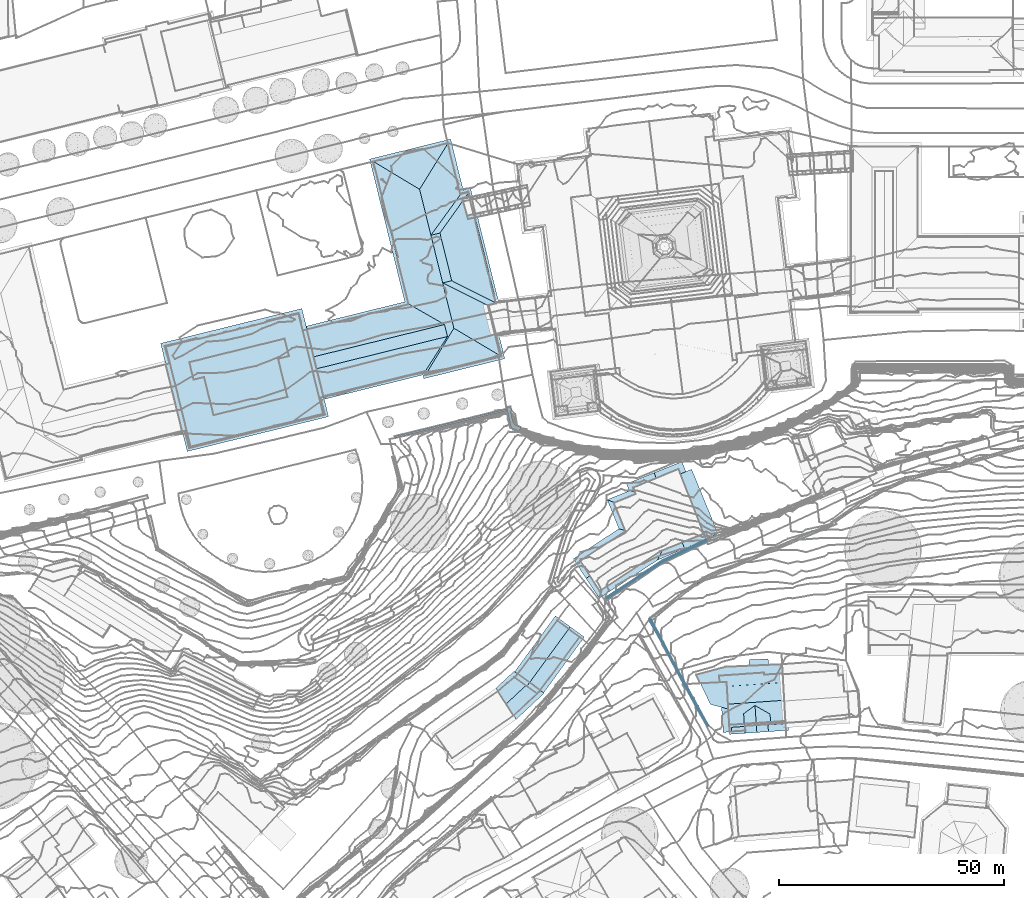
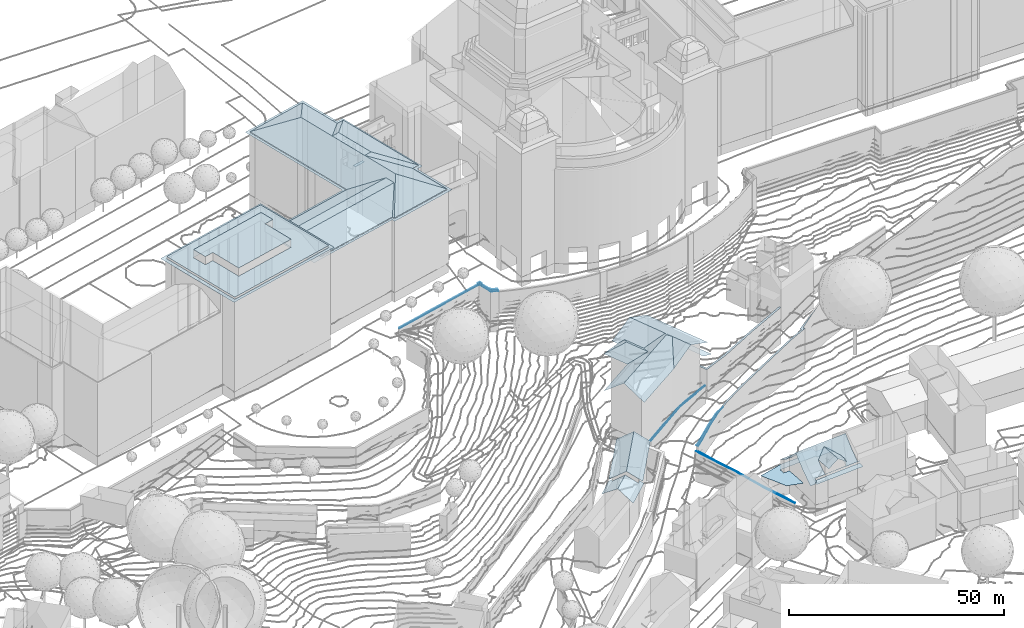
# Not in any storey, part 76 of 494: 18 roofs.
"""IFC2X3 model written with IfcOpenShell, lengths in metres."""

from ifc_helpers import new_model, si_unit, frame, origin_with_axes, place, context, subcontext, project, faceted_brep, element, save


model = new_model("IFC2X3")

# Units and contexts
model_context = context("Model", 3, precision=1e-05, world=origin_with_axes())
body_context = subcontext(model_context, "Body", "Model", "MODEL_VIEW")
ifc_project = project(units=[si_unit("AREAUNIT", "SQUARE_METRE"), si_unit("LENGTHUNIT", "METRE")], contexts=[model_context])

# Roofs
roof_1_placement = place(None, frame((211.8297320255, 101.9383160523, 526.7541), z_axis=(0.0, 0.0, 1.0), x_axis=(1.0, 0.0, 0.0)))
element("IfcRoof", 1, at=roof_1_placement, Name="Roof 3", ShapeType="NOTDEFINED", context=body_context, shape_type="Brep", body=[
    faceted_brep([(279.751000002, 292.1328000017, 24.302), (279.5840000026, 292.9023000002, 24.302), (276.8790000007, 291.5137000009, 24.302), (276.6600000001, 292.2723999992, 24.302)], [[[0, 1, 2]], [[3, 2, 1]]]),
])
roof_2_placement = place(None, frame((211.8297320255, 101.9383160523, 526.7541), z_axis=(0.0, 0.0, 1.0), x_axis=(1.0, 0.0, 0.0)))
element("IfcRoof", 2, at=roof_2_placement, Name="Roof 49", ShapeType="NOTDEFINED", context=body_context, shape_type="Brep", body=[
    faceted_brep([(285.5260000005, 249.0487999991, 13.4408), (285.4420000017, 249.4101000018, 13.4408), (260.5320000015, 243.3379000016, 13.4408), (260.620000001, 242.9765000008, 13.4408), (286.1970000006, 248.9990000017, 13.5628), (286.4820000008, 249.0634999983, 13.5628), (285.3690000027, 249.7305000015, 13.5628), (286.2809999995, 249.9393999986, 13.5628), (286.7640000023, 246.5692999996, 13.5628), (286.4130000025, 245.1796999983, 13.5628), (288.2349999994, 244.4609000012, 13.5628), (287.2149999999, 245.8680999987, 13.5628), (288.5089999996, 245.3583999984, 13.5628)], [[[0, 1, 2]], [[2, 3, 0]], [[4, 5, 6]], [[7, 6, 5]], [[4, 6, 8]], [[9, 10, 11]], [[11, 8, 9]], [[12, 11, 10]], [[9, 8, 6]]]),
])
roof_3_placement = place(None, frame((211.8297320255, 101.9383160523, 526.7541), z_axis=(0.0, 0.0, 1.0), x_axis=(1.0, 0.0, 0.0)))
element("IfcRoof", 3, at=roof_3_placement, Name="Roof 73", ShapeType="NOTDEFINED", context=body_context, shape_type="Brep", body=[
    faceted_brep([(329.8200000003, 220.1338, -13.0868), (329.6909999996, 220.4560000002, -13.0867), (320.0240000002, 215.8564000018, -13.0867), (320.1950000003, 215.5537, -13.0867), (307.4640000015, 207.6141999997, -13.3507), (307.6610000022, 207.3280999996, -13.3497)], [[[0, 1, 2]], [[2, 3, 0]], [[3, 2, 4]], [[4, 5, 3]]]),
])
roof_4_placement = place(None, frame((211.8297320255, 101.9383160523, 526.7541), z_axis=(0.0, 0.0, 1.0), x_axis=(1.0, 0.0, 0.0)))
element("IfcRoof", 4, at=roof_4_placement, Name="Roof 74", ShapeType="NOTDEFINED", context=body_context, shape_type="Brep", body=[
    faceted_brep([(329.9260000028, 219.8671999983, -8.4892), (336.4900000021, 222.9530999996, -8.1932), (330.2320000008, 220.5643999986, -8.4892), (329.6119999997, 222.120099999, -8.4892), (329.1080000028, 221.9189000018, -8.4892), (336.6920000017, 222.4492000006, -8.1932), (345.5150000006, 226.7470999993, -7.1543), (356.0329999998, 230.5771000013, -6.4134), (355.8230000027, 231.0771000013, -6.4134), (345.7250000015, 226.2470999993, -7.1543)], [[[0, 1, 2]], [[3, 4, 2]], [[0, 2, 4]], [[1, 0, 5]], [[6, 7, 8]], [[1, 5, 6]], [[9, 6, 5]], [[9, 7, 6]]]),
])
roof_5_placement = place(None, frame((211.8297320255, 101.9383160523, 526.7541), z_axis=(0.0, 0.0, 1.0), x_axis=(1.0, 0.0, 0.0)))
element("IfcRoof", 5, at=roof_5_placement, Name="Roof 82", ShapeType="NOTDEFINED", context=body_context, shape_type="Brep", body=[
    faceted_brep([(325.4169999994, 209.3729999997, -14.4056), (327.3210000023, 210.2148000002, -14.1247), (327.0160000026, 210.5722000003, -14.1347), (325.7039999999, 209.0243999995, -14.4046), (329.5329999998, 211.4404000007, -13.6877), (323.4570000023, 207.9023000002, -14.5956), (323.7280000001, 207.5370999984, -14.5966), (318.8420000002, 204.1103000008, -15.2206), (319.1640000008, 203.6992000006, -15.2206), (317.2360000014, 202.8603000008, -15.2346), (317.5140000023, 202.3574000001, -15.2356), (317.3619999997, 202.9580000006, -15.2336)], [[[0, 1, 2]], [[1, 0, 3]], [[4, 2, 1]], [[5, 6, 0]], [[3, 0, 6]], [[6, 5, 7]], [[7, 8, 6]], [[9, 10, 11]], [[11, 8, 7]], [[8, 11, 10]]]),
])
roof_6_placement = place(None, frame((211.8297320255, 101.9383160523, 526.7541), z_axis=(0.0, 0.0, 1.0), x_axis=(1.0, 0.0, 0.0)))
element("IfcRoof", 6, at=roof_6_placement, Name="Roof 83", ShapeType="NOTDEFINED", context=body_context, shape_type="Brep", body=[
    faceted_brep([(348.2180000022, 219.9853000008, -10.339), (348.3960000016, 219.5342000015, -10.34), (353.4940000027, 222.2256000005, -9.6301), (354.0190000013, 221.9697000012, -9.5821), (336.1300000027, 214.8555000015, -12.1509), (330.8370000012, 212.0936999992, -13.3767), (336.2930000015, 214.442400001, -12.1529), (358.6170000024, 223.8066000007, -9.1681), (357.693, 223.8564000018, -9.1681), (357.5240000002, 224.2617000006, -9.1681), (358.4250000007, 224.3143999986, -9.1681), (364.5199999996, 228.5967000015, -8.2052), (330.8900000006, 212.6229999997, -13.3187), (329.2880000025, 211.7743999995, -13.6997), (329.5329999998, 211.4404000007, -13.6877), (327.0160000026, 210.5722000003, -14.1347)], [[[0, 1, 2]], [[3, 2, 1]], [[4, 5, 6]], [[2, 7, 8]], [[7, 2, 3]], [[9, 8, 10]], [[7, 10, 8]], [[11, 9, 10]], [[12, 13, 14]], [[15, 14, 13]], [[1, 0, 6]], [[4, 6, 0]], [[4, 12, 5]], [[14, 5, 12]]]),
])
roof_7_placement = place(None, frame((211.8297320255, 101.9383160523, 526.7541), z_axis=(0.0, 0.0, 1.0), x_axis=(1.0, 0.0, 0.0)))
element("IfcRoof", 7, at=roof_7_placement, Name="Roof 85", ShapeType="NOTDEFINED", context=body_context, shape_type="Brep", body=[
    faceted_brep([(329.9570000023, 179.0137000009, -21.669), (330.2019999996, 179.1581999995, -21.669), (330.1400000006, 179.2109000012, -21.656), (327.8320000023, 183.4316000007, -20.7571)], [[[0, 1, 2]], [[3, 0, 2]]]),
])
roof_8_placement = place(None, frame((211.8297320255, 101.9383160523, 526.7541), z_axis=(0.0, 0.0, 1.0), x_axis=(1.0, 0.0, 0.0)))
element("IfcRoof", 8, at=roof_8_placement, Name="Roof 86", ShapeType="NOTDEFINED", context=body_context, shape_type="Brep", body=[
    faceted_brep([(322.7210000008, 192.8222999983, -18.6592), (322.4910000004, 192.7012000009, -18.6592), (323.4299999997, 191.4824000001, -18.9962), (325.6339999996, 186.7373000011, -20.1591), (325.938000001, 186.8964999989, -20.1591), (320.2380000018, 197.5185000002, -17.8803), (320.0100000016, 197.3916000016, -17.8803), (329.9570000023, 179.0137000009, -21.669), (327.8320000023, 183.4316000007, -20.7571), (327.4610000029, 183.2256000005, -20.7571), (316.9629999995, 202.6484000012, -16.6504), (317.5140000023, 202.3574000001, -16.7574), (317.6300000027, 202.4512000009, -16.7524), (317.2360000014, 202.8603000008, -16.6404)], [[[0, 1, 2]], [[2, 3, 4]], [[3, 2, 1]], [[1, 0, 5]], [[5, 6, 1]], [[7, 8, 9]], [[6, 5, 10]], [[11, 5, 12]], [[10, 5, 11]], [[13, 10, 11]], [[4, 3, 8]], [[9, 8, 3]]]),
])
roof_9_placement = place(None, frame((495.292732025, 288.7264160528, 509.5088), z_axis=(0.0, 0.0, 1.0), x_axis=(1.0, 0.0, 0.0)))
element("IfcRoof", 9, at=roof_9_placement, Name="Roof 0", ShapeType="NOTDEFINED", context=body_context, shape_type="Brep", body=[
    faceted_brep([(1.813000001, -2.8125, 12.3218), (8.6700000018, -0.5927999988, 10.191), (6.1500000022, 1.2479999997, 12.3218), (4.0310000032, -6.253899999, 9.522), (9.0329999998, -0.2578000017, 10.188), (10.2380000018, -0.442400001, 9.522), (9.3670000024, 0.1933000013, 10.258), (3.643000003, 3.0780999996, 10.244), (-0.4499999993, 0.6972000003, 9.522), (3.5500000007, 4.441399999, 9.522), (4.3840000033, 3.8319999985, 10.213), (4.1290000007, 3.4891999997, 10.266)], [[[0, 1, 2]], [[1, 0, 3]], [[4, 5, 6]], [[5, 4, 1]], [[5, 1, 3]], [[0, 7, 8]], [[7, 0, 2]], [[8, 7, 9]], [[10, 9, 11]], [[11, 9, 7]]]),
])
roof_10_placement = place(None, frame((495.292732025, 288.7264160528, 509.5088), z_axis=(0.0, 0.0, 1.0), x_axis=(1.0, 0.0, 0.0)))
element("IfcRoof", 10, at=roof_10_placement, Name="Roof 1", ShapeType="NOTDEFINED", context=body_context, shape_type="Brep", body=[
    faceted_brep([(19.1530000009, 12.0165999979, 10.8019), (6.381000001, 1.0790999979, 13.2887), (9.5020000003, -1.2001999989, 10.8019), (3.0840000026, 3.4862999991, 10.8019), (12.7350000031, 16.7030999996, 10.8019), (16.0320000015, 14.2958999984, 13.2887)], [[[0, 1, 2]], [[3, 1, 4]], [[5, 1, 0]], [[1, 5, 4]]]),
])
roof_11_placement = place(None, frame((513.5957320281, 317.6404160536, 509.4928), z_axis=(0.0, 0.0, 1.0), x_axis=(1.0, 0.0, 0.0)))
element("IfcRoof", 11, at=roof_11_placement, Name="Roof 0", ShapeType="NOTDEFINED", context=body_context, shape_type="Brep", body=[
    faceted_brep([(27.7219999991, 4.9091999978, 12.3058), (27.3729999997, 5.9970999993, 12.2738), (27.2879999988, 5.9628999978, 12.3058), (30.5109999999, 6.0566999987, 11.2639), (24.6409999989, 20.3154999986, 11.2639), (22.1969999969, 19.3085999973, 12.1768)], [[[0, 1, 2]], [[1, 0, 3]], [[1, 4, 5]], [[1, 3, 4]]]),
])
roof_12_placement = place(None, frame((513.5957320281, 317.6404160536, 509.4928), z_axis=(0.0, 0.0, 1.0), x_axis=(1.0, 0.0, 0.0)))
element("IfcRoof", 12, at=roof_12_placement, Name="Roof 1", ShapeType="NOTDEFINED", context=body_context, shape_type="Brep", body=[
    faceted_brep([(9.9519999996, 6.7344000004, 16.2454), (8.5130000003, 7.1327999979, 15.4205), (-1.6229999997, 0.4687999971, 15.4205), (1.242999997, -3.8925000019, 19.2541), (19.6319999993, 8.1972999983, 19.2541), (20.2419999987, 9.8046999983, 18.5142), (13.2729999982, 5.8154999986, 18.1502), (14.6009999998, 10.0205000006, 16.1054), (12.5009999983, 15.2324999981, 16.1054), (16.810999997, 18.3222999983, 18.5142), (16.311999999, 19.5625, 18.5142), (10.1739999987, 17.0898999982, 15.4205), (10.799999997, 15.5370999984, 15.4205), (10.925999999, 11.6415999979, 18.1502), (7.6380000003, 12.9081999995, 16.3574), (5.9189999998, 13.5713, 15.4205), (21.0159999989, 7.8827999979, 18.5142), (18.1059999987, 2.2529999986, 16.2684), (17.0069999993, 0.1259999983, 15.4205), (4.1559999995, -8.3222000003, 15.4205), (23.0759999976, 2.7675999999, 18.5142), (22.5590000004, 4.0527999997, 18.5142), (29.1829999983, 5.423899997, 15.4305), (22.4869999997, 22.0497999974, 15.4305)], [[[0, 1, 2]], [[2, 3, 0]], [[4, 5, 6]], [[6, 0, 3]], [[7, 6, 5]], [[4, 6, 3]], [[8, 7, 9]], [[7, 5, 9]], [[10, 11, 8]], [[12, 8, 11]], [[8, 9, 10]], [[8, 13, 7]], [[6, 7, 13]], [[14, 15, 1]], [[13, 14, 0]], [[0, 6, 13]], [[0, 14, 1]], [[8, 12, 13]], [[12, 14, 13]], [[14, 12, 15]], [[16, 5, 4]], [[17, 16, 3]], [[3, 16, 4]], [[18, 17, 19]], [[19, 17, 3]], [[17, 18, 20]], [[21, 16, 17]], [[21, 17, 20]], [[22, 21, 20]], [[21, 22, 16]], [[22, 5, 16]], [[5, 23, 9]], [[23, 5, 22]], [[10, 9, 23]]]),
])
roof_13_placement = place(None, frame((539.2757320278, 292.3553160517, 501.0115), z_axis=(0.0, 0.0, 1.0), x_axis=(1.0, 0.0, 0.0)))
element("IfcRoof", 13, at=roof_13_placement, Name="Roof 0", ShapeType="NOTDEFINED", context=body_context, shape_type="Brep", body=[
    faceted_brep([(5.2049999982, -1.6728999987, 5.8745), (7.1259999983, -7.5878999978, 5.8744), (6.7630000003, -1.5878999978, 5.8745), (3.129999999, -6.5439999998, 5.8744), (5.1039999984, -0.2100000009, 5.8745), (0.0, 0.0, 5.8745), (6.5359999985, 1.754900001, 5.8745), (11.5989999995, 1.9844000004, 5.8745), (16.0590000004, 2.1865000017, 5.8744), (15.0810000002, 0.4803999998, 5.8744), (15.112999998, 0.0155999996, 5.8744), (11.7899999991, 3.3808000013, 5.8745), (19.2049999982, 0.2987999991, 5.8744), (19.2170000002, 0.0839999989, 5.8744), (19.7589999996, 0.1220000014, 5.8744), (19.6389999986, 2.3496000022, 5.8744), (15.9389999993, 3.5311999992, 5.8745)], [[[0, 1, 2]], [[1, 0, 3]], [[3, 0, 4]], [[5, 4, 6]], [[5, 3, 4]], [[4, 7, 6]], [[8, 9, 10]], [[9, 11, 7]], [[12, 13, 14]], [[12, 14, 15]], [[8, 10, 12]], [[16, 11, 8]], [[12, 15, 8]], [[11, 9, 8]], [[7, 4, 9]]]),
])
roof_14_placement = place(None, frame((539.2757320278, 292.3553160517, 501.0115), z_axis=(0.0, 0.0, 1.0), x_axis=(1.0, 0.0, 0.0)))
element("IfcRoof", 14, at=roof_14_placement, Name="Roof 1", ShapeType="NOTDEFINED", context=body_context, shape_type="Brep", body=[
    faceted_brep([(7.3559999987, -12.4521999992, 8.8042), (7.4019999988, -13.1895000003, 8.8042), (7.8519999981, -12.4189999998, 8.8042), (7.8349999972, -12.1748000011, 8.8042), (10.867999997, -11.4239000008, 8.8042), (7.7969999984, -11.6367000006, 8.8042), (20.4749999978, -12.2841999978, 8.8041), (20.362999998, -10.6620999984, 8.8041), (10.862999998, -11.3583999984, 8.8042), (5.2740000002, -2.6651000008, 10.261), (6.8220000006, -2.557599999, 10.261), (5.2049999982, -1.6728999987, 9.6951), (15.112999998, 0.0155999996, 9.1271), (5.1039999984, -0.2100000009, 8.8612), (15.0810000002, 0.4803999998, 8.8612), (19.3189999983, -1.692400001, 10.261), (19.2170000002, 0.0839999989, 9.2481), (19.6169999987, 0.1123000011, 9.2491), (19.6019999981, 0.3251999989, 9.1271), (19.2049999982, 0.2987999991, 9.1271), (7.2719999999, -11.1279999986, 8.8042), (7.3399999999, -12.2100000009, 8.8042), (7.4049999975, -12.2040999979, 8.8042), (7.3399999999, -11.1230999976, 8.8042), (16.3579999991, -8.6992000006, 11.3619), (16.375, -8.942400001, 11.1619), (19.7069999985, -8.4677999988, 11.3619), (19.8339999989, -10.7012000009, 9.5291), (20.368999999, -10.7665999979, 9.4461), (20.3619999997, -10.6620999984, 9.5311), (16.5139999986, -10.9443999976, 9.5181), (10.867999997, -11.4239000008, 9.4461), (10.686999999, -11.371100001, 9.4991), (10.5289999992, -9.1026000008, 11.3619), (5.7419999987, -9.433600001, 11.3619), (7.7969999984, -11.6367000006, 9.4461), (5.9729999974, -12.7675999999, 8.6252), (7.368999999, -12.6708999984, 8.6252), (13.0209999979, -6.7822999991, 13.7327), (15.8959999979, -11.0205000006, 11.8229), (16.5139999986, -10.9443999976, 11.3619), (13.3259999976, -11.1787, 13.7327), (13.4360000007, -12.7714999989, 13.7327), (16.004999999, -12.5938000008, 11.8239), (16.5159999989, -10.9776000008, 11.3619), (10.4959999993, -8.620099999, 11.8969), (10.7579999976, -12.4003999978, 11.8969), (10.7960000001, -12.9540999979, 11.8969), (19.5439999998, -5.629900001, 14.5066), (7.0599999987, -6.4941999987, 14.5066), (5.5460000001, -6.5995999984, 14.5066), (10.5089999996, -8.8017999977, 11.6969)], [[[0, 1, 2]], [[3, 2, 4]], [[5, 3, 4]], [[1, 6, 2]], [[4, 6, 7]], [[6, 4, 2]], [[7, 8, 4]], [[9, 10, 11]], [[11, 12, 13]], [[12, 11, 10]], [[13, 12, 14]], [[10, 15, 12]], [[16, 17, 18]], [[19, 12, 16]], [[18, 19, 16]], [[16, 12, 15]], [[20, 21, 22]], [[22, 23, 20]], [[24, 25, 26]], [[27, 26, 25]], [[28, 29, 27]], [[30, 31, 28]], [[32, 31, 30]], [[30, 28, 27]], [[25, 30, 27]], [[32, 33, 34]], [[32, 34, 35]], [[2, 35, 0]], [[0, 36, 37]], [[36, 0, 35]], [[35, 34, 36]], [[31, 32, 35]], [[24, 38, 39]], [[39, 40, 24]], [[39, 38, 41]], [[42, 43, 39]], [[39, 44, 40]], [[42, 39, 41]], [[38, 45, 41]], [[41, 45, 46]], [[46, 47, 42]], [[46, 42, 41]], [[26, 48, 38]], [[38, 48, 49]], [[26, 38, 24]], [[45, 49, 50]], [[49, 45, 38]], [[45, 50, 34]], [[45, 34, 51]], [[51, 34, 33]], [[15, 10, 48]], [[48, 10, 49]], [[49, 9, 50]], [[9, 49, 10]]]),
])
roof_15_placement = place(None, frame((373.5987320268, 371.2869160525, 536.8784), z_axis=(0.0, 0.0, 1.0), x_axis=(1.0, 0.0, 0.0)))
element("IfcRoof", 15, at=roof_15_placement, Name="Roof 1", ShapeType="NOTDEFINED", context=body_context, shape_type="Brep", body=[
    faceted_brep([(74.4100000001, -4.3856999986, 31.5679), (72.9580000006, -8.8467000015, 31.5678), (75.3640000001, -8.2529000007, 31.5678), (53.2630000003, -9.6035000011, 31.5679), (56.5469999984, -12.8955000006, 31.5679), (75.0439999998, -17.2998000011, 31.5678), (54.2159999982, -13.4697000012, 31.5679), (58.6330000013, -21.3495999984, 31.5678)], [[[0, 1, 2]], [[1, 0, 3]], [[1, 4, 5]], [[3, 6, 4]], [[4, 7, 5]], [[3, 4, 1]]]),
])
roof_16_placement = place(None, frame((373.5987320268, 371.2869160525, 536.8784), z_axis=(0.0, 0.0, 1.0), x_axis=(1.0, 0.0, 0.0)))
element("IfcRoof", 16, at=roof_16_placement, Name="Roof 2", ShapeType="NOTDEFINED", context=body_context, shape_type="Brep", body=[
    faceted_brep([(53.5419999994, -28.3251999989, 29.2891), (54.2159999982, -13.4697000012, 29.2891), (48.0639999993, -6.1162, 29.2891), (58.6330000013, -21.3495999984, 29.2891), (56.5469999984, -12.8955000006, 29.2891), (75.0439999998, -17.2998000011, 29.2891), (53.2630000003, -9.6035000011, 29.2891), (57.8649999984, -3.7060000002, 29.2891), (72.9580000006, -8.8467000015, 29.2891), (75.3640000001, -8.2529000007, 29.2891), (74.4100000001, -4.3856999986, 29.2891), (82.9759999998, -21.0643999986, 29.289), (78.4189999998, -2.5654000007, 29.2891), (70.6050000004, -0.5516999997, 29.2891), (77.4970000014, 1.1444999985, 29.2891)], [[[0, 1, 2]], [[1, 0, 3]], [[3, 4, 1]], [[0, 5, 3]], [[6, 2, 1]], [[7, 2, 6]], [[8, 5, 9]], [[7, 6, 10]], [[9, 11, 12]], [[11, 9, 5]], [[5, 0, 11]], [[13, 10, 14]], [[7, 10, 13]], [[12, 14, 10]], [[10, 9, 12]]]),
])
roof_17_placement = place(None, frame((373.5987320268, 371.2869160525, 536.8784), z_axis=(0.0, 0.0, 1.0), x_axis=(1.0, 0.0, 0.0)))
element("IfcRoof", 17, at=roof_17_placement, Name="Roof 4", ShapeType="NOTDEFINED", context=body_context, shape_type="Brep", body=[
    faceted_brep([(105.5549999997, -11.5976000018, 23.7586), (110.4910000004, -3.8603000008, 27.0812), (81.4860000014, -11.0166000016, 27.0813), (82.9970000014, -17.1416000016, 23.7696), (122.2280000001, -8.1611000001, 23.7585), (109.4230000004, 8.0108000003, 27.9842), (111.9010000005, -2.0370999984, 27.9842), (105.7120000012, -12.2353000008, 23.7586), (78.4219999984, -2.5643999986, 23.8186), (79.3449999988, -2.3348999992, 23.8186), (78.4129999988, -2.5205000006, 23.7946), (78.4019999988, -2.4736000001, 23.7696), (101.8660000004, 3.3379000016, 23.7586), (80.8339999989, -8.370099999, 27.0813), (109.8379999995, -1.2148000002, 27.0813), (115.2490000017, 28.1376999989, 23.7958), (115.1669999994, 28.1182000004, 23.7958), (115.1840000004, 28.0469000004, 23.8378), (108.8110000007, 19.0947999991, 27.9843), (113.3869999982, 27.6787, 23.7958), (106.8099999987, 18.6015999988, 27.9842), (110.5949999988, 39.0078000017, 23.7588), (104.2989999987, 28.7822000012, 27.9844), (108.8539999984, 38.5800999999, 23.7588), (95.7369999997, 35.3418000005, 23.7588), (94.0769999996, 34.9316999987, 23.7588), (119.4659999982, 3.0342000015, 23.7956), (111.4230000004, 8.503899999, 27.9842), (121.2650000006, 3.4765999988, 23.7956), (121.3280000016, 3.4941999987, 23.7956), (93.1999999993, 35.4902000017, 23.5928), (97.1779999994, 22.3594000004, 23.5928), (94.5029999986, 33.1845999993, 23.5928), (94.0769999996, 34.9316999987, 23.5928), (110.5650000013, 38.8438000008, 23.5928), (94.1589999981, 34.8828000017, 23.5928), (94.2380000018, 34.5615000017, 23.5928), (95.7369999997, 35.3418000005, 23.5928), (101.0139999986, 3.8242000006, 23.5926), (99.3209999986, 13.6493999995, 23.5926), (97.3079999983, 22.1191999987, 23.5928), (99.4290000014, 13.4981000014, 23.5926), (113.9730000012, 28.6435999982, 23.5928), (94.6600000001, 32.8330000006, 23.5928), (111.0009999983, 37.1387000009, 23.5928), (113.1350000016, 28.7021999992, 23.5928), (108.8539999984, 38.5800999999, 23.5928), (111.188000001, 39.9287, 23.5928), (110.5949999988, 39.0078000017, 23.5928), (111.0289999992, 37.2626999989, 23.5928), (110.5439999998, 38.9257999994, 23.5928), (115.6079999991, 29.0469000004, 23.5928), (122.0439999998, 2.9648999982, 23.5926), (78.4019999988, -2.4736000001, 23.5926), (76.6999999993, -2.1748000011, 23.5926), (101.8660000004, 3.3379000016, 23.5926), (78.4120000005, -2.5155999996, 23.5926), (82.5069999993, -17.9589999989, 23.5926), (82.9869999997, -17.0986000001, 23.5926), (80.5949999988, -18.4316000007, 23.5926), (82.9970000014, -17.1416000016, 23.5926), (105.0179999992, -12.4043000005, 23.5926), (105.5549999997, -11.5976000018, 23.5926), (101.9479999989, 3.2910000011, 23.5926), (105.7120000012, -12.2353000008, 23.5926), (105.2219999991, -13.2305000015, 23.5926), (105.6059999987, -11.5185000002, 23.5926), (122.125, -8.0311999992, 23.5926), (119.6900000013, 2.1259999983, 23.5926), (120.4079999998, 2.5615000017, 23.5926), (122.2280000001, -8.1611000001, 23.5926), (105.7619999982, -12.1532999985, 23.5926), (122.1449999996, -8.1123000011, 23.5926), (123.2100000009, -8.7910000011, 23.5926), (99.3209999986, 13.6493999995, 23.7586), (94.5029999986, 33.1845999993, 23.7588), (97.1779999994, 22.3594000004, 23.7588), (111.0289999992, 37.2626999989, 23.7648), (113.3610000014, 27.7842000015, 23.7958), (106.4649999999, 37.9902999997, 23.7418), (106.4649999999, 37.9902000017, 23.6098)], [[[0, 1, 2]], [[2, 3, 0]], [[4, 5, 6]], [[7, 4, 6]], [[8, 9, 10]], [[11, 10, 9]], [[12, 13, 14]], [[12, 11, 9]], [[12, 9, 13]], [[13, 2, 14]], [[1, 14, 2]], [[15, 16, 17]], [[17, 16, 18]], [[19, 20, 18]], [[19, 18, 16]], [[20, 21, 22]], [[21, 23, 22]], [[22, 24, 25]], [[24, 22, 23]], [[5, 4, 26]], [[5, 26, 27]], [[27, 26, 28]], [[28, 29, 27]], [[18, 20, 27]], [[5, 27, 20]], [[27, 29, 17]], [[27, 17, 18]], [[17, 29, 15]], [[30, 31, 32]], [[33, 30, 32]], [[34, 35, 36]], [[30, 33, 37]], [[38, 31, 30]], [[38, 39, 31]], [[40, 41, 42]], [[36, 43, 44]], [[45, 43, 40]], [[46, 47, 30]], [[48, 47, 46]], [[46, 30, 37]], [[44, 34, 36]], [[42, 49, 45]], [[50, 35, 34]], [[51, 42, 41]], [[47, 49, 42]], [[45, 40, 42]], [[47, 48, 49]], [[43, 45, 44]], [[41, 52, 51]], [[53, 38, 54]], [[53, 55, 38]], [[39, 38, 55]], [[54, 56, 53]], [[57, 58, 59]], [[58, 57, 60]], [[61, 62, 60]], [[60, 57, 61]], [[63, 56, 58]], [[59, 58, 56]], [[54, 59, 56]], [[64, 61, 65]], [[58, 66, 63]], [[67, 68, 66]], [[63, 66, 68]], [[68, 69, 63]], [[70, 69, 68]], [[41, 69, 52]], [[41, 63, 69]], [[62, 61, 64]], [[71, 72, 67]], [[73, 69, 70]], [[70, 64, 65]], [[65, 73, 70]], [[71, 67, 66]], [[14, 6, 74]], [[6, 14, 1]], [[7, 1, 0]], [[1, 7, 6]], [[74, 6, 5]], [[20, 22, 25]], [[20, 25, 75]], [[14, 74, 12]], [[75, 76, 20]], [[76, 74, 5]], [[5, 20, 76]], [[77, 21, 20]], [[78, 20, 19]], [[20, 78, 77]], [[21, 79, 23]], [[80, 48, 46]]]),
])
roof_18_placement = place(None, frame((373.5987320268, 371.2869160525, 536.8784), z_axis=(0.0, 0.0, 1.0), x_axis=(1.0, 0.0, 0.0)))
element("IfcRoof", 18, at=roof_18_placement, Name="Roof 7", ShapeType="NOTDEFINED", context=body_context, shape_type="Brep", body=[
    faceted_brep([(78.1909999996, 2.3407999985, 28.7191), (70.6039999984, -0.5507999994, 28.7191), (77.4970000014, 1.1444999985, 28.7191), (70.1350000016, -0.691399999, 28.7191), (67.561999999, -1.3310000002, 28.7191), (79.3449999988, -2.3348999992, 28.7191), (67.0709999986, -1.4550999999, 28.7191), (64.4990000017, -2.0888999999, 28.7191), (64.5260000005, -2.1865000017, 28.7191), (64.006000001, -2.2138999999, 28.7191), (67.5949999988, -1.4305999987, 28.7191), (61.4290000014, -2.8436999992, 28.7191), (84.1070000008, -21.6405999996, 28.7191), (82.9759999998, -21.0643999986, 28.7191), (53.5419999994, -28.3251999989, 28.7191), (70.1629999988, -0.7899999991, 28.7191), (67.0929999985, -1.5527000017, 28.7191), (64.0229999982, -2.3027000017, 28.7191), (60.932, -2.9618999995, 28.7191), (57.8660000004, -3.7109000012, 28.7191), (58.368999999, -3.6055000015, 28.7191), (46.8409999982, -5.3925999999, 28.7192), (60.9580000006, -3.0654000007, 28.7191), (48.0639999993, -6.1162, 28.7191), (47.9979999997, -10.0830000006, 28.7191), (54.824000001, -4.4580000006, 28.7191), (55.2969999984, -4.3535000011, 28.7191), (55.3229999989, -4.4492000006, 28.7191), (58.3869999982, -3.6992000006, 28.7191), (51.6810000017, -25.0097000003, 28.7191), (52.7569999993, -29.3729999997, 28.7191), (57.8920000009, -3.8203000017, 28.7191), (61.4560000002, -2.9433000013, 28.7191)], [[[0, 1, 2]], [[3, 1, 4]], [[1, 0, 4]], [[0, 2, 5]], [[0, 6, 4]], [[6, 0, 7]], [[7, 8, 6]], [[7, 0, 9]], [[3, 4, 10]], [[0, 11, 9]], [[12, 5, 13]], [[12, 13, 14]], [[2, 13, 5]], [[10, 15, 3]], [[16, 6, 8]], [[9, 11, 17]], [[18, 19, 20]], [[19, 18, 21]], [[22, 18, 20]], [[18, 11, 21]], [[23, 21, 24]], [[21, 23, 25]], [[25, 26, 21]], [[19, 26, 27]], [[21, 26, 19]], [[11, 0, 21]], [[24, 14, 23]], [[28, 22, 20]], [[29, 14, 24]], [[14, 29, 30]], [[14, 30, 12]], [[19, 27, 31]], [[11, 32, 17]]]),
])

save(model, "model.ifc")
